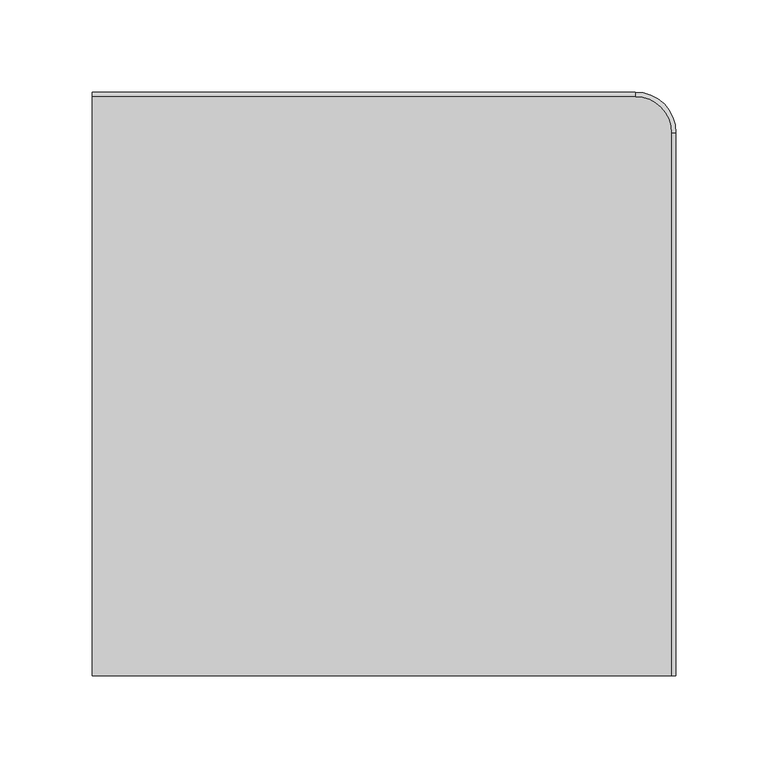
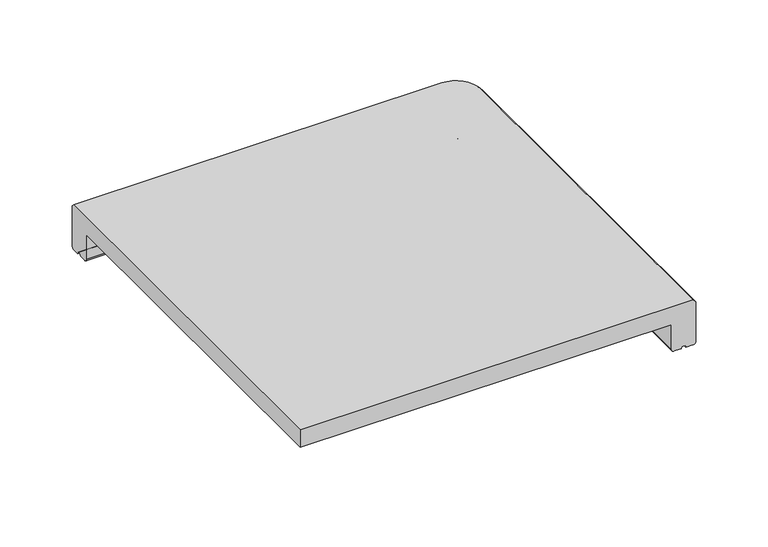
"""IFC4 building model written with IfcOpenShell, lengths in millimetres: proxy geometry, ROSA GRES_DL1 (corte) : Pieza DL1_Serena_Ocra_Anti-Slip."""

from ifc_helpers import new_model, si_unit, point, frame, origin, place, context, project, spatial, polyline, circle_curve, ellipse_curve, trimmed, source, transform, mapped, element, save
from ifc_brep_helpers import plane_surface, cylinder_surface, revolved_surface, advanced_brep


def generic_models_5b7ab967(model_context):
    return source(origin(), model_context, "Body", "AdvancedBrep", [
        advanced_brep(
        [(0.0, -317.0, 38.0), (0.0, -2.5, 38.0), (0.0, 0.0, 35.5), (0.0, 0.0, 2.5), (0.0, -2.5, 0.0), (0.0, -8.1382138, 0.0), (0.0, -11.8617862, 0.0), (0.0, -17.5, 0.0), (0.0, -20.0, 2.5), (0.0, -20.0, 23.2451288), (0.0, -317.0, 23.2451288), (314.5, -317.0, 38.0), (314.5, -22.0, 38.0), (295.0, -2.5, 38.0), (295.0, -20.0, 2.5), (295.0, -20.0, 23.2451288), (295.0, -17.5, 0.0), (295.0, -11.8617862, 0.0), (305.1382138, -22.0, 0.0), (305.1382138, -317.0, 0.0), (299.5, -317.0, 0.0), (299.5, -22.0, 0.0), (295.0, -8.1382138, 0.0), (295.0, -2.5, 0.0), (314.5, -22.0, 0.0), (314.5, -317.0, 0.0), (308.8617862, -317.0, 0.0), (308.8617862, -22.0, 0.0), (295.0, 0.0, 2.5), (295.0, 0.0, 35.5), (297.0, -22.0, 2.5), (297.0, -22.0, 23.2451288), (317.0, -22.0, 2.5), (317.0, -22.0, 35.5), (297.0, -317.0, 23.2451288), (297.0, -317.0, 2.5), (317.0, -317.0, 2.5), (317.0, -317.0, 35.5)],
        [
            (0, 1),
            (1, 2),
            (2, 3),
            (3, 4, circle_curve(frame((0.0, -2.5, 2.5), z_axis=(-1.0, 0.0, 0.0), x_axis=(0.0, -1.0, 0.0)), 2.5)),
            (4, 5),
            (5, 6, circle_curve(frame((0.0, -10.0, 0.0), z_axis=(1.0, 0.0, 0.0), x_axis=(0.0, -1.0, 0.0)), 1.8617862)),
            (6, 7),
            (7, 8, circle_curve(frame((0.0, -17.5, 2.5), z_axis=(-1.0, 0.0, 0.0), x_axis=(0.0, -1.0, 0.0)), 2.5)),
            (8, 9),
            (9, 10),
            (10, 0),
            (0, 11),
            (11, 12),
            (12, 13, circle_curve(frame((295.0, -22.0, 38.0), z_axis=(0.0, 0.0, 1.0), x_axis=(0.0, 1.0, 0.0)), 19.5)),
            (13, 1),
            (14, 15),
            (15, 9),
            (8, 14),
            (7, 16),
            (16, 14, circle_curve(frame((295.0, -17.5, 2.5), z_axis=(-1.0, 0.0, 0.0), x_axis=(0.0, -1.0, 0.0)), 2.5)),
            (6, 17),
            (17, 18, circle_curve(frame((295.0, -22.0, 0.0), z_axis=(0.0, 0.0, -1.0), x_axis=(0.0, 1.0, 0.0)), 10.1382138)),
            (18, 19),
            (19, 20),
            (20, 21),
            (21, 16, circle_curve(frame((295.0, -22.0, 0.0), z_axis=(0.0, 0.0, 1.0), x_axis=(0.0, 1.0, 0.0)), 4.5)),
            (5, 22),
            (22, 17, circle_curve(frame((295.0, -10.0, 0.0), z_axis=(1.0, 0.0, 0.0), x_axis=(0.0, -1.0, 0.0)), 1.8617862)),
            (4, 23),
            (23, 24, circle_curve(frame((295.0, -22.0, 0.0), z_axis=(0.0, 0.0, -1.0), x_axis=(0.0, 1.0, 0.0)), 19.5)),
            (24, 25),
            (25, 26),
            (26, 27),
            (27, 22, circle_curve(frame((295.0, -22.0, 0.0), z_axis=(0.0, 0.0, 1.0), x_axis=(0.0, 1.0, 0.0)), 13.8617862)),
            (3, 28),
            (28, 23, circle_curve(frame((295.0, -2.5, 2.5), z_axis=(-1.0, 0.0, 0.0), x_axis=(0.0, -1.0, 0.0)), 2.5)),
            (2, 29),
            (29, 28),
            (30, 31),
            (31, 15, circle_curve(frame((295.0, -22.0, 23.2451288), z_axis=(0.0, 0.0, 1.0), x_axis=(0.0, 1.0, 0.0)), 2.0)),
            (14, 30, circle_curve(frame((295.0, -22.0, 2.5), z_axis=(0.0, 0.0, -1.0), x_axis=(0.0, 1.0, 0.0)), 2.0)),
            (21, 30, circle_curve(frame((299.5, -22.0, 2.5), z_axis=(0.0, 1.0, 0.0), x_axis=(-1.0, 0.0, 0.0)), 2.5)),
            (27, 18, circle_curve(frame((307.0, -22.0, 0.0), z_axis=(0.0, -1.0, 0.0), x_axis=(-1.0, 0.0, 0.0)), 1.8617862)),
            (28, 32, circle_curve(frame((295.0, -22.0, 2.5), z_axis=(0.0, 0.0, -1.0), x_axis=(0.0, 1.0, 0.0)), 22.0)),
            (32, 24, circle_curve(frame((314.5, -22.0, 2.5), z_axis=(0.0, 1.0, 0.0), x_axis=(-1.0, 0.0, 0.0)), 2.5)),
            (29, 33, circle_curve(frame((295.0, -22.0, 35.5), z_axis=(0.0, 0.0, -1.0), x_axis=(0.0, 1.0, 0.0)), 22.0)),
            (33, 32),
            (10, 34),
            (34, 35),
            (35, 20, circle_curve(frame((299.5, -317.0, 2.5), z_axis=(0.0, -1.0, 0.0), x_axis=(-1.0, 0.0, 0.0)), 2.5)),
            (19, 26, circle_curve(frame((307.0, -317.0, 0.0), z_axis=(0.0, 1.0, 0.0), x_axis=(-1.0, 0.0, 0.0)), 1.8617862)),
            (25, 36, circle_curve(frame((314.5, -317.0, 2.5), z_axis=(0.0, -1.0, 0.0), x_axis=(-1.0, 0.0, 0.0)), 2.5)),
            (36, 37),
            (37, 11),
            (34, 31),
            (30, 35),
            (32, 36),
            (33, 37),
            (13, 29),
            (12, 33),
        ],
        [
            plane_surface(frame((0.0, 0.0, 0.0), z_axis=(-1.0, 0.0, 0.0), x_axis=(0.0, 0.0, 1.0))),
            plane_surface(frame((0.0, -2.5, 38.0), z_axis=(0.0, 0.0, 1.0), x_axis=(1.0, 0.0, 0.0))),
            plane_surface(frame((0.0, -20.0, 38.0), z_axis=(0.0, -1.0, 0.0), x_axis=(1.0, 0.0, 0.0))),
            cylinder_surface(frame((0.0, -17.5, 2.5), z_axis=(-1.0, 0.0, 0.0), x_axis=(0.0, -1.0, 0.0)), 2.5),
            plane_surface(frame((0.0, -17.5, 0.0), z_axis=(0.0, 0.0, -1.0), x_axis=(1.0, 0.0, 0.0))),
            revolved_surface(polyline([(295.0, -11.861786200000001, 0.0), (0.0, -11.861786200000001, 0.0)]), (0.0, -10.0, 0.0), (1.0, 0.0, 0.0)),
            plane_surface(frame((0.0, -8.1382138, 0.0), z_axis=(0.0, 0.0, -1.0), x_axis=(1.0, 0.0, 0.0))),
            cylinder_surface(frame((0.0, -2.5, 2.5), z_axis=(-1.0, 0.0, 0.0), x_axis=(0.0, -1.0, 0.0)), 2.5),
            plane_surface(frame((0.0, 0.0, 2.5), z_axis=(0.0, 1.0, 0.0), x_axis=(1.0, 0.0, 0.0))),
            revolved_surface(polyline([(295.0, -20.0, 23.2451288), (295.0, -20.0, 2.5)]), (295.0, -22.0, 0.0), (0.0, 0.0, 1.0)),
            revolved_surface(trimmed(ellipse_curve(frame((295.0, -17.5, 2.5), z_axis=(1.0, 0.0, 0.0), x_axis=(0.0, -1.0, 0.0)), 2.5, 2.5), [point((295.0, -20.0, 2.5))], [point((295.0, -17.5, 0.0))], True, "CARTESIAN"), (295.0, -22.0, 0.0), (0.0, 0.0, 1.0)),
            revolved_surface(trimmed(ellipse_curve(frame((295.0, -10.0, 0.0), z_axis=(-1.0, 0.0, 0.0), x_axis=(0.0, -1.0, 0.0)), 1.8617862, 1.8617862), [point((295.0, -11.8617862, 0.0))], [point((295.0, -8.1382138, 0.0))], True, "CARTESIAN"), (295.0, -22.0, 0.0), (0.0, 0.0, 1.0)),
            revolved_surface(trimmed(ellipse_curve(frame((295.0, -2.5, 2.5), z_axis=(1.0, 0.0, 0.0), x_axis=(0.0, -1.0, 0.0)), 2.5, 2.5), [point((295.0, -2.5, 0.0))], [point((295.0, 0.0, 2.5))], True, "CARTESIAN"), (295.0, -22.0, 0.0), (0.0, 0.0, 1.0)),
            cylinder_surface(frame((295.0, -22.0, 0.0), z_axis=(0.0, 0.0, 1.0), x_axis=(0.0, 1.0, 0.0)), 22.0),
            plane_surface(frame((317.0, -317.0, 0.0), z_axis=(0.0, -1.0, 0.0), x_axis=(0.0, 0.0, 1.0))),
            plane_surface(frame((297.0, -22.0, 38.0), z_axis=(-1.0, 0.0, 0.0), x_axis=(0.0, -1.0, 0.0))),
            cylinder_surface(frame((299.5, -22.0, 2.5), z_axis=(0.0, 1.0, 0.0), x_axis=(-1.0, 0.0, 0.0)), 2.5),
            revolved_surface(polyline([(305.1382138, -317.0, 0.0), (305.1382138, -22.0, 0.0)]), (307.0, -22.0, 0.0), (0.0, -1.0, 0.0)),
            cylinder_surface(frame((314.5, -22.0, 2.5), z_axis=(0.0, 1.0, 0.0), x_axis=(-1.0, 0.0, 0.0)), 2.5),
            plane_surface(frame((317.0, -22.0, 2.5), z_axis=(1.0, 0.0, 0.0), x_axis=(0.0, -1.0, 0.0))),
            plane_surface(frame((297.0, -20.0, 23.2451288), z_axis=(0.0, 0.0, -1.0), x_axis=(-1.0, 0.0, 0.0))),
            plane_surface(frame((0.0, 0.0, 35.5), z_axis=(0.0, 0.7071067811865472, 0.7071067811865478), x_axis=(1.0, 0.0, 0.0))),
            revolved_surface(polyline([(295.0, 0.0, 35.5), (295.0, -2.5, 38.0)]), (295.0, -22.0, 0.0), (0.0, 0.0, 1.0)),
            plane_surface(frame((317.0, -22.0, 35.5), z_axis=(0.7071067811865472, 0.0, 0.7071067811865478), x_axis=(0.0, -1.0, 0.0))),
        ],
        [
            (0, [[1, 2, 3, 4, 5, 6, 7, 8, 9, 10, 11]]),
            (1, [[12, 13, 14, 15, -1]]),
            (2, [[16, 17, -9, 18]]),
            (3, [[19, 20, -18, -8]]),
            (4, [[21, 22, 23, 24, 25, 26, -19, -7]]),
            (5, [[27, 28, -21, -6]]),
            (6, [[29, 30, 31, 32, 33, 34, -27, -5]]),
            (7, [[35, 36, -29, -4]]),
            (8, [[37, 38, -35, -3]]),
            (9, [[39, 40, -16, 41]]),
            (10, [[-26, 42, -41, -20]]),
            (11, [[-28, -34, 43, -22]]),
            (12, [[-36, 44, 45, -30]]),
            (13, [[46, 47, -44, -38]]),
            (14, [[-11, 48, 49, 50, -24, 51, -32, 52, 53, 54, -12]]),
            (15, [[-49, 55, -39, 56]]),
            (16, [[-50, -56, -42, -25]]),
            (17, [[-43, -33, -51, -23]]),
            (18, [[-45, 57, -52, -31]]),
            (19, [[58, -53, -57, -47]]),
            (20, [[-17, -40, -55, -48, -10]]),
            (21, [[-15, 59, -37, -2]]),
            (22, [[60, -46, -59, -14]]),
            (23, [[-54, -58, -60, -13]]),
        ],
    ),
    ])


if __name__ == "__main__":
    model = new_model("IFC4")
    model_context = context("Model", 3, world=origin())
    ifc_project = project(units=[si_unit("LENGTHUNIT", "METRE", prefix="MILLI")], contexts=[model_context])
    site = spatial("IfcSite", under=ifc_project)
    building = spatial("IfcBuilding", under=site)
    placement = place(None, origin())
    generic_models_shape = generic_models_5b7ab967(model_context)
    element("IfcBuildingElementProxy", 1, Name="ROSA GRES_DL1 (corte) : Pieza DL1_Serena_Ocra_Anti-Slip", ObjectType="ROSA GRES_DL1 (corte) : Pieza DL1_Serena_Ocra_Anti-Slip", at=placement, inside=building, context=model_context, shape_type="MappedRepresentation", body=[
        mapped(generic_models_shape, transform((0.0, 0.0, 0.0), x_axis=(1.0, 0.0, 0.0), y_axis=(0.0, 1.0, 0.0), z_axis=(0.0, 0.0, 1.0))),
    ])
    save(model, "model.ifc")
